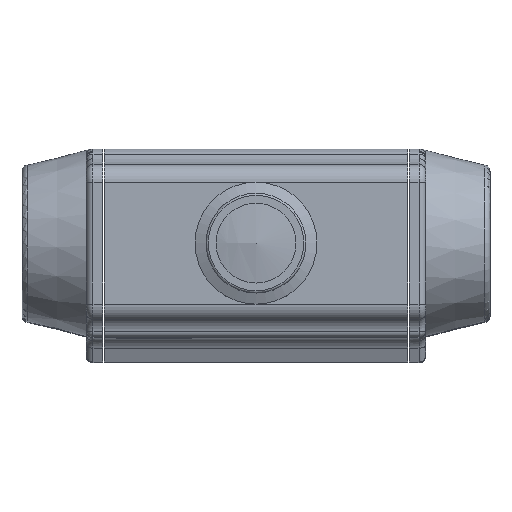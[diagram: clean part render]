
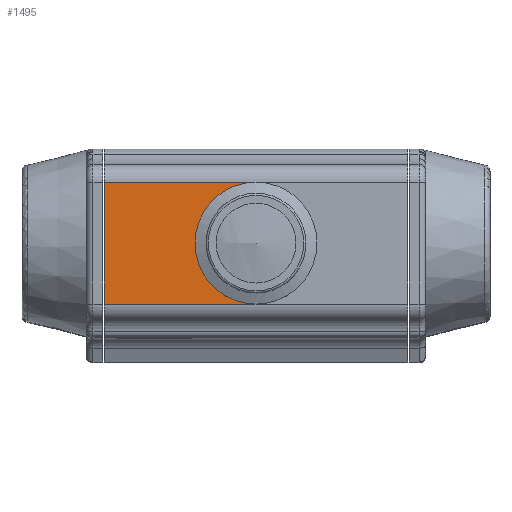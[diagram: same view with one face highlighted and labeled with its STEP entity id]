
A CAD part, top view. The second image highlights one B-rep face of the part: STEP entity #1495.
In plain terms, the highlighted planar face has unit normal (0, 0, 1).
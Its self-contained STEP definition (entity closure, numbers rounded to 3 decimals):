
#1495 = ADVANCED_FACE( '', ( #3093 ), #3094, .T. );
#3093 = FACE_OUTER_BOUND( '', #5762, .T. );
#3094 = PLANE( '', #5763 );
#5762 = EDGE_LOOP( '', ( #10738, #10739, #10740, #10741 ) );
#5763 = AXIS2_PLACEMENT_3D( '', #10742, #10743, #10744 );
#10738 = ORIENTED_EDGE( '', *, *, #10968, .F. );
#10739 = ORIENTED_EDGE( '', *, *, #11395, .T. );
#10740 = ORIENTED_EDGE( '', *, *, #12309, .T. );
#10741 = ORIENTED_EDGE( '', *, *, #11626, .F. );
#10742 = CARTESIAN_POINT( '', ( 68.5, -27.5, 51. ) );
#10743 = DIRECTION( '', ( 0., 0., 1. ) );
#10744 = DIRECTION( '', ( 1., 0., 0. ) );
#10968 = EDGE_CURVE( '', #12681, #12678, #12683, .T. );
#11395 = EDGE_CURVE( '', #12681, #13418, #13419, .T. );
#11626 = EDGE_CURVE( '', #12678, #13786, #13787, .T. );
#12309 = EDGE_CURVE( '', #13418, #13786, #14723, .T. );
#12678 = VERTEX_POINT( '', #15245 );
#12681 = VERTEX_POINT( '', #15249 );
#12683 = LINE( '', #15252, #15253 );
#13418 = VERTEX_POINT( '', #17432 );
#13419 = CIRCLE( '', #17433, 27.5 );
#13786 = VERTEX_POINT( '', #18525 );
#13787 = LINE( '', #18526, #18527 );
#14723 = LINE( '', #21135, #21136 );
#15245 = CARTESIAN_POINT( '', ( -68.5, -27.5, 51. ) );
#15249 = CARTESIAN_POINT( '', ( 0., -27.5, 51. ) );
#15252 = CARTESIAN_POINT( '', ( 68.5, -27.5, 51. ) );
#15253 = VECTOR( '', #22151, 1000. );
#17432 = CARTESIAN_POINT( '', ( 0., 27.5, 51. ) );
#17433 = AXIS2_PLACEMENT_3D( '', #22584, #22585, #22586 );
#18525 = CARTESIAN_POINT( '', ( -68.5, 27.5, 51. ) );
#18526 = CARTESIAN_POINT( '', ( -68.5, -27.5, 51. ) );
#18527 = VECTOR( '', #22830, 1000. );
#21135 = CARTESIAN_POINT( '', ( 68.5, 27.5, 51. ) );
#21136 = VECTOR( '', #23456, 1000. );
#22151 = DIRECTION( '', ( -1., 0., 0. ) );
#22584 = CARTESIAN_POINT( '', ( 0., 0., 51. ) );
#22585 = DIRECTION( '', ( 0., 0., -1. ) );
#22586 = DIRECTION( '', ( -1., 0., 0. ) );
#22830 = DIRECTION( '', ( 0., 1., 0. ) );
#23456 = DIRECTION( '', ( -1., 0., 0. ) );
